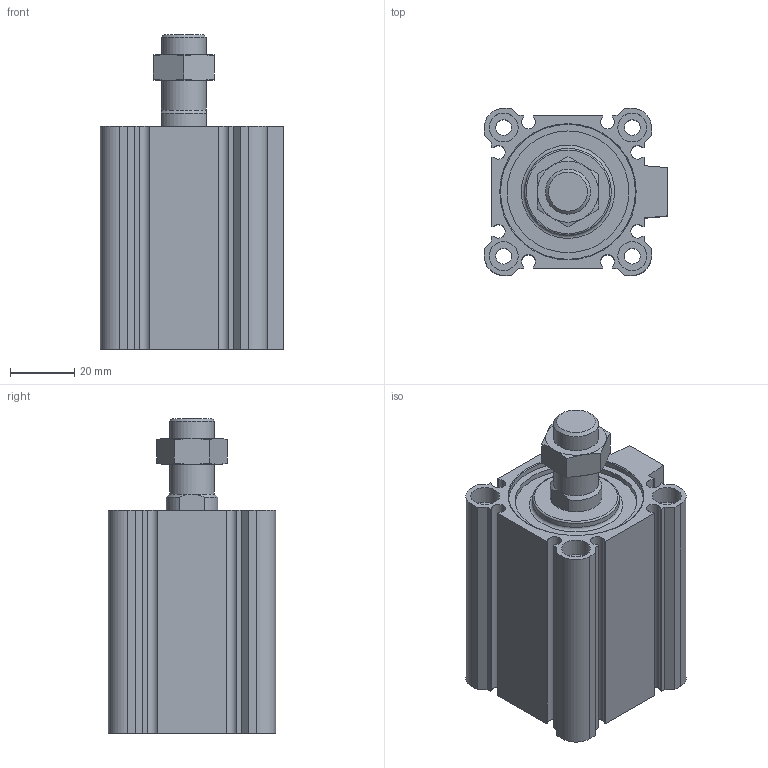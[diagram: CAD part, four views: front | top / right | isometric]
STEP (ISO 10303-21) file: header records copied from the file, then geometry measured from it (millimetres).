
FILE_DESCRIPTION( ( 'STEP AP214' ), '1' );
FILE_NAME( 'C:/Users/emc02044/Desktop/SQN SQN big size/SQN40X30-S-M.stp', '2026-07-29T02:00:37', ( 'License CC BY-ND 4.0' ), ( 'CADENAS' ), ' ', 'PARTsolutions', ' ' );
FILE_SCHEMA( ( 'AUTOMOTIVE_DESIGN { 1 0 10303 214 1 1 1 1 }' ) );
Length unit declared in the file: millimetre
Products named in the file (3): SQN40X30-S-M; _SQ40X30-S(0) ()_body; _SQ40X30-S-M(rod-0)
Assembly tree (2 placements, depth 2):
  SQN40X30-S-M
    _SQ40X30-S(0) ()_body
    _SQ40X30-S-M(rod-0)
Bounding box: 57 x 52 x 98 mm (x, y, z)
Volume: 125790.8 mm3; surface area: 49126 mm2
Topology: 2 solids, 2 shells, 157 faces, 355 edges, 229 vertices
Faces by surface type: plane 89, cylinder 44, cone 22, torus 2
Full cylindrical faces by diameter (mm): 4.917 x8, 5.5 x4, 8.566 x2, 9 x8, 14 x2, 16 x2, 27 x1, 37.9 x1, 40 x3, 42 x1
Entity records: 5560 total; most frequent: CARTESIAN_POINT 844, DIRECTION 716, ORIENTED_EDGE 620, EDGE_CURVE 310, AXIS2_PLACEMENT_3D 274, EDGE_LOOP 234, VERTEX_POINT 226, FACE_OUTER_BOUND 191
